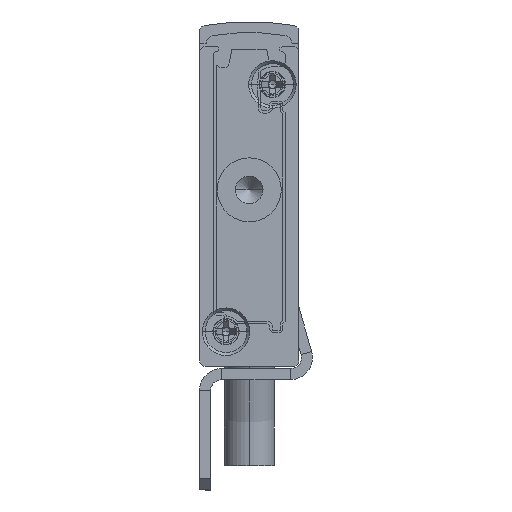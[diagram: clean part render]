
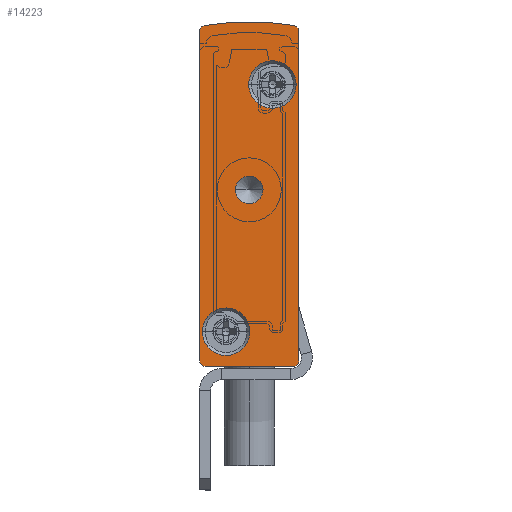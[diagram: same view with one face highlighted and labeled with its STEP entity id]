
A CAD part, front view. The second image highlights one B-rep face of the part: STEP entity #14223.
In plain terms, the highlighted planar face has unit normal (0, -1, 0).
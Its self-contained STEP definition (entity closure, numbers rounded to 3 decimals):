
#47 = AXIS2_PLACEMENT_3D ( 'NONE', #17166, #19081, #13604 ) ;
#167 = DIRECTION ( 'NONE',  ( 0., 1., 0. ) ) ;
#197 = CIRCLE ( 'NONE', #47, 2.15 ) ;
#501 = DIRECTION ( 'NONE',  ( 0., 1., 0. ) ) ;
#513 = CARTESIAN_POINT ( 'NONE',  ( -3.25, -2.5, 16. ) ) ;
#962 = ORIENTED_EDGE ( 'NONE', *, *, #21679, .F. ) ;
#996 = AXIS2_PLACEMENT_3D ( 'NONE', #2587, #2661, #19246 ) ;
#1299 = AXIS2_PLACEMENT_3D ( 'NONE', #15947, #8537, #3099 ) ;
#1347 = VERTEX_POINT ( 'NONE', #17117 ) ;
#1394 = VECTOR ( 'NONE', #18292, 1000. ) ;
#1491 = CARTESIAN_POINT ( 'NONE',  ( -0.408, -2.5, 30.893 ) ) ;
#2048 = DIRECTION ( 'NONE',  ( 0., -1., 0. ) ) ;
#2178 = VERTEX_POINT ( 'NONE', #2218 ) ;
#2195 = VERTEX_POINT ( 'NONE', #513 ) ;
#2203 = DIRECTION ( 'NONE',  ( 0., -1., 0. ) ) ;
#2218 = CARTESIAN_POINT ( 'NONE',  ( -0.25, -2.5, 25.55 ) ) ;
#2378 = CIRCLE ( 'NONE', #22831, 1.25 ) ;
#2533 = LINE ( 'NONE', #22068, #1394 ) ;
#2587 = CARTESIAN_POINT ( 'NONE',  ( -0.5, -2.5, 30.402 ) ) ;
#2661 = DIRECTION ( 'NONE',  ( 0., 1., 0. ) ) ;
#2761 = ORIENTED_EDGE ( 'NONE', *, *, #5782, .F. ) ;
#3099 = DIRECTION ( 'NONE',  ( -1., 0., 0. ) ) ;
#3231 = VECTOR ( 'NONE', #22857, 1000. ) ;
#3670 = DIRECTION ( 'NONE',  ( 0., 1., 0. ) ) ;
#3681 = ORIENTED_EDGE ( 'NONE', *, *, #11600, .F. ) ;
#3866 = AXIS2_PLACEMENT_3D ( 'NONE', #8542, #501, #11608 ) ;
#3869 = AXIS2_PLACEMENT_3D ( 'NONE', #14652, #18437, #5755 ) ;
#3927 = ORIENTED_EDGE ( 'NONE', *, *, #6159, .F. ) ;
#4083 = FACE_OUTER_BOUND ( 'NONE', #19242, .T. ) ;
#4219 = CARTESIAN_POINT ( 'NONE',  ( -6.6, -2.5, 3.15 ) ) ;
#4301 = CIRCLE ( 'NONE', #1299, 0.5 ) ;
#4422 = CARTESIAN_POINT ( 'NONE',  ( -4.5, -2.5, 16. ) ) ;
#4715 = VERTEX_POINT ( 'NONE', #20153 ) ;
#4959 = ORIENTED_EDGE ( 'NONE', *, *, #19120, .F. ) ;
#5065 = LINE ( 'NONE', #10696, #8572 ) ;
#5066 = CARTESIAN_POINT ( 'NONE',  ( -8.5, -2.5, 30.402 ) ) ;
#5166 = DIRECTION ( 'NONE',  ( 0., 1., 0. ) ) ;
#5324 = DIRECTION ( 'NONE',  ( 0., 0., 1. ) ) ;
#5433 = CARTESIAN_POINT ( 'NONE',  ( 0., -2.5, 30.402 ) ) ;
#5532 = CIRCLE ( 'NONE', #16303, 2.15 ) ;
#5602 = EDGE_CURVE ( 'NONE', #21028, #4715, #9316, .T. ) ;
#5745 = ORIENTED_EDGE ( 'NONE', *, *, #15456, .F. ) ;
#5755 = DIRECTION ( 'NONE',  ( 1., 0., 0. ) ) ;
#5782 = EDGE_CURVE ( 'NONE', #14728, #23683, #5532, .T. ) ;
#6159 = EDGE_CURVE ( 'NONE', #17830, #22023, #4301, .T. ) ;
#6224 = CARTESIAN_POINT ( 'NONE',  ( -8.75, -2.5, 3.15 ) ) ;
#6271 = ORIENTED_EDGE ( 'NONE', *, *, #24027, .F. ) ;
#6344 = CARTESIAN_POINT ( 'NONE',  ( -8.5, -2.5, 0. ) ) ;
#6424 = FACE_BOUND ( 'NONE', #14819, .T. ) ;
#7101 = CARTESIAN_POINT ( 'NONE',  ( -9., -2.5, 30.402 ) ) ;
#7113 = VERTEX_POINT ( 'NONE', #1491 ) ;
#7123 = ORIENTED_EDGE ( 'NONE', *, *, #16822, .F. ) ;
#7203 = ORIENTED_EDGE ( 'NONE', *, *, #11136, .F. ) ;
#7275 = DIRECTION ( 'NONE',  ( 0., 1., 0. ) ) ;
#8220 = VERTEX_POINT ( 'NONE', #14365 ) ;
#8255 = AXIS2_PLACEMENT_3D ( 'NONE', #12971, #3670, #16421 ) ;
#8443 = CIRCLE ( 'NONE', #18658, 2.15 ) ;
#8477 = CIRCLE ( 'NONE', #3866, 23.658 ) ;
#8537 = DIRECTION ( 'NONE',  ( 0., 1., 0. ) ) ;
#8542 = CARTESIAN_POINT ( 'NONE',  ( -4.5, -2.5, 7.592 ) ) ;
#8572 = VECTOR ( 'NONE', #5324, 1000. ) ;
#9316 = CIRCLE ( 'NONE', #19578, 0.5 ) ;
#9769 = VERTEX_POINT ( 'NONE', #5433 ) ;
#9793 = ORIENTED_EDGE ( 'NONE', *, *, #19337, .T. ) ;
#9914 = FACE_BOUND ( 'NONE', #15143, .T. ) ;
#10133 = AXIS2_PLACEMENT_3D ( 'NONE', #11122, #167, #18537 ) ;
#10352 = CIRCLE ( 'NONE', #996, 0.5 ) ;
#10696 = CARTESIAN_POINT ( 'NONE',  ( -9., -2.5, 30.402 ) ) ;
#10765 = CIRCLE ( 'NONE', #19310, 0.5 ) ;
#11122 = CARTESIAN_POINT ( 'NONE',  ( -8.5, -2.5, 30.402 ) ) ;
#11136 = EDGE_CURVE ( 'NONE', #19813, #2178, #8443, .T. ) ;
#11533 = DIRECTION ( 'NONE',  ( 1., 0., 0. ) ) ;
#11600 = EDGE_CURVE ( 'NONE', #11844, #8220, #10765, .T. ) ;
#11608 = DIRECTION ( 'NONE',  ( -1., 0., 0. ) ) ;
#11844 = VERTEX_POINT ( 'NONE', #17319 ) ;
#11939 = CARTESIAN_POINT ( 'NONE',  ( -0.5, -2.5, 0. ) ) ;
#12042 = CIRCLE ( 'NONE', #3869, 2.15 ) ;
#12971 = CARTESIAN_POINT ( 'NONE',  ( -4.5, -2.5, 16. ) ) ;
#13058 = EDGE_LOOP ( 'NONE', ( #18132, #2761 ) ) ;
#13458 = ORIENTED_EDGE ( 'NONE', *, *, #19615, .T. ) ;
#13604 = DIRECTION ( 'NONE',  ( 1., 0., 0. ) ) ;
#14223 = ADVANCED_FACE ( 'NONE', ( #9914, #14820, #4083, #6424 ), #20481, .F. ) ;
#14365 = CARTESIAN_POINT ( 'NONE',  ( -9., -2.5, 0.5 ) ) ;
#14523 = LINE ( 'NONE', #6344, #3231 ) ;
#14652 = CARTESIAN_POINT ( 'NONE',  ( -2.4, -2.5, 25.55 ) ) ;
#14728 = VERTEX_POINT ( 'NONE', #6224 ) ;
#14819 = EDGE_LOOP ( 'NONE', ( #13458, #9793 ) ) ;
#14820 = FACE_BOUND ( 'NONE', #13058, .T. ) ;
#15007 = CARTESIAN_POINT ( 'NONE',  ( -8.5, -2.5, 0.5 ) ) ;
#15143 = EDGE_LOOP ( 'NONE', ( #6271, #7203 ) ) ;
#15456 = EDGE_CURVE ( 'NONE', #9769, #17830, #2533, .T. ) ;
#15702 = EDGE_CURVE ( 'NONE', #23683, #14728, #197, .T. ) ;
#15947 = CARTESIAN_POINT ( 'NONE',  ( -0.5, -2.5, 0.5 ) ) ;
#16233 = EDGE_CURVE ( 'NONE', #8220, #21028, #5065, .T. ) ;
#16303 = AXIS2_PLACEMENT_3D ( 'NONE', #4219, #2203, #11533 ) ;
#16421 = DIRECTION ( 'NONE',  ( -1., 0., 0. ) ) ;
#16822 = EDGE_CURVE ( 'NONE', #22023, #11844, #14523, .T. ) ;
#17102 = CIRCLE ( 'NONE', #8255, 1.25 ) ;
#17117 = CARTESIAN_POINT ( 'NONE',  ( -5.75, -2.5, 16. ) ) ;
#17166 = CARTESIAN_POINT ( 'NONE',  ( -6.6, -2.5, 3.15 ) ) ;
#17319 = CARTESIAN_POINT ( 'NONE',  ( -8.5, -2.5, 0. ) ) ;
#17830 = VERTEX_POINT ( 'NONE', #23432 ) ;
#17945 = CARTESIAN_POINT ( 'NONE',  ( -4.55, -2.5, 25.55 ) ) ;
#18132 = ORIENTED_EDGE ( 'NONE', *, *, #15702, .F. ) ;
#18292 = DIRECTION ( 'NONE',  ( 0., 0., -1. ) ) ;
#18437 = DIRECTION ( 'NONE',  ( 0., -1., 0. ) ) ;
#18537 = DIRECTION ( 'NONE',  ( -1., 0., 0. ) ) ;
#18658 = AXIS2_PLACEMENT_3D ( 'NONE', #23860, #2048, #18796 ) ;
#18796 = DIRECTION ( 'NONE',  ( 1., 0., 0. ) ) ;
#18992 = ORIENTED_EDGE ( 'NONE', *, *, #5602, .F. ) ;
#19081 = DIRECTION ( 'NONE',  ( 0., -1., 0. ) ) ;
#19083 = DIRECTION ( 'NONE',  ( 0., 1., 0. ) ) ;
#19120 = EDGE_CURVE ( 'NONE', #4715, #7113, #8477, .T. ) ;
#19242 = EDGE_LOOP ( 'NONE', ( #18992, #23581, #3681, #7123, #3927, #5745, #962, #4959 ) ) ;
#19246 = DIRECTION ( 'NONE',  ( -1., 0., 0. ) ) ;
#19310 = AXIS2_PLACEMENT_3D ( 'NONE', #15007, #7275, #20187 ) ;
#19337 = EDGE_CURVE ( 'NONE', #2195, #1347, #17102, .T. ) ;
#19578 = AXIS2_PLACEMENT_3D ( 'NONE', #5066, #5166, #23867 ) ;
#19615 = EDGE_CURVE ( 'NONE', #1347, #2195, #2378, .T. ) ;
#19813 = VERTEX_POINT ( 'NONE', #17945 ) ;
#20153 = CARTESIAN_POINT ( 'NONE',  ( -8.592, -2.5, 30.893 ) ) ;
#20187 = DIRECTION ( 'NONE',  ( -1., 0., 0. ) ) ;
#20481 = PLANE ( 'NONE',  #10133 ) ;
#21028 = VERTEX_POINT ( 'NONE', #7101 ) ;
#21679 = EDGE_CURVE ( 'NONE', #7113, #9769, #10352, .T. ) ;
#22023 = VERTEX_POINT ( 'NONE', #11939 ) ;
#22068 = CARTESIAN_POINT ( 'NONE',  ( 0., -2.5, 30.402 ) ) ;
#22379 = CARTESIAN_POINT ( 'NONE',  ( -4.45, -2.5, 3.15 ) ) ;
#22755 = DIRECTION ( 'NONE',  ( -1., 0., 0. ) ) ;
#22831 = AXIS2_PLACEMENT_3D ( 'NONE', #4422, #19083, #22755 ) ;
#22857 = DIRECTION ( 'NONE',  ( -1., 0., 0. ) ) ;
#23432 = CARTESIAN_POINT ( 'NONE',  ( 0., -2.5, 0.5 ) ) ;
#23581 = ORIENTED_EDGE ( 'NONE', *, *, #16233, .F. ) ;
#23683 = VERTEX_POINT ( 'NONE', #22379 ) ;
#23860 = CARTESIAN_POINT ( 'NONE',  ( -2.4, -2.5, 25.55 ) ) ;
#23867 = DIRECTION ( 'NONE',  ( -1., 0., 0. ) ) ;
#24027 = EDGE_CURVE ( 'NONE', #2178, #19813, #12042, .T. ) ;
